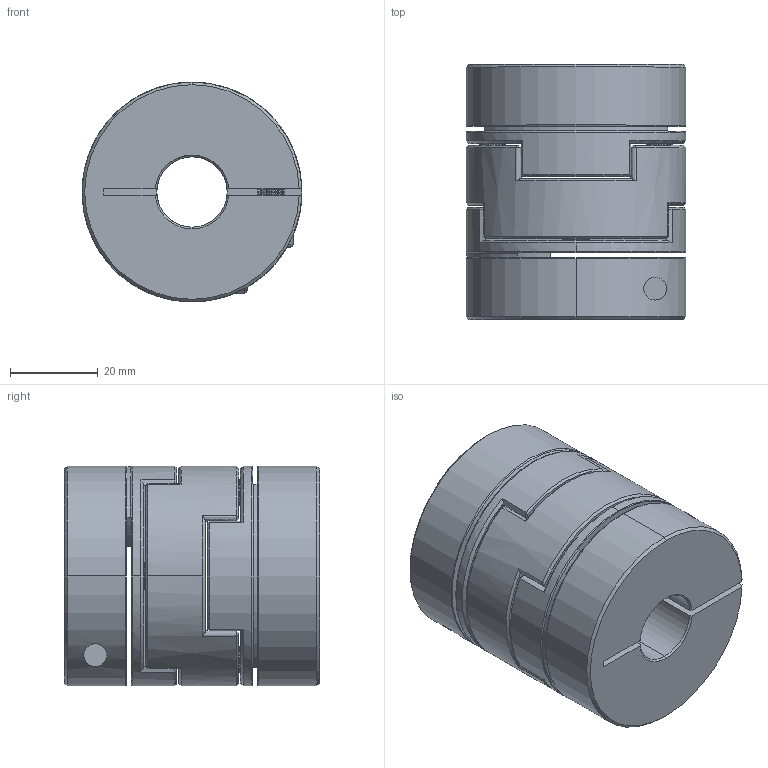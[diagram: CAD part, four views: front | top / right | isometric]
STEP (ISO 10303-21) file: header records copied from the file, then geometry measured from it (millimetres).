
FILE_DESCRIPTION (( 'STEP AP203' ), '1' );
FILE_NAME ('LZ-B-D50L58-16-19.STEP', '2021-10-29T08:11:41', ( '' ), ( '' ), 'SwSTEP 2.0', 'SolidWorks 2018', '' );
FILE_SCHEMA (( 'CONFIG_CONTROL_DESIGN' ));
Length unit declared in the file: millimetre
Products named in the file (1): LZ-B-D50L58-16-19
Bounding box: 50 x 58 x 50 mm (x, y, z)
Volume: 91201.5 mm3; surface area: 29967.8 mm2
Topology: 1 solids, 27 shells, 560 faces, 1364 edges, 810 vertices
Faces by surface type: cone 252, cylinder 160, plane 90, bspline 54, torus 4
Entity records: 17422 total; most frequent: CARTESIAN_POINT 4342, DIRECTION 2782, ORIENTED_EDGE 2720, EDGE_CURVE 1360, AXIS2_PLACEMENT_3D 1123, VERTEX_POINT 810, CIRCLE 616, EDGE_LOOP 594
